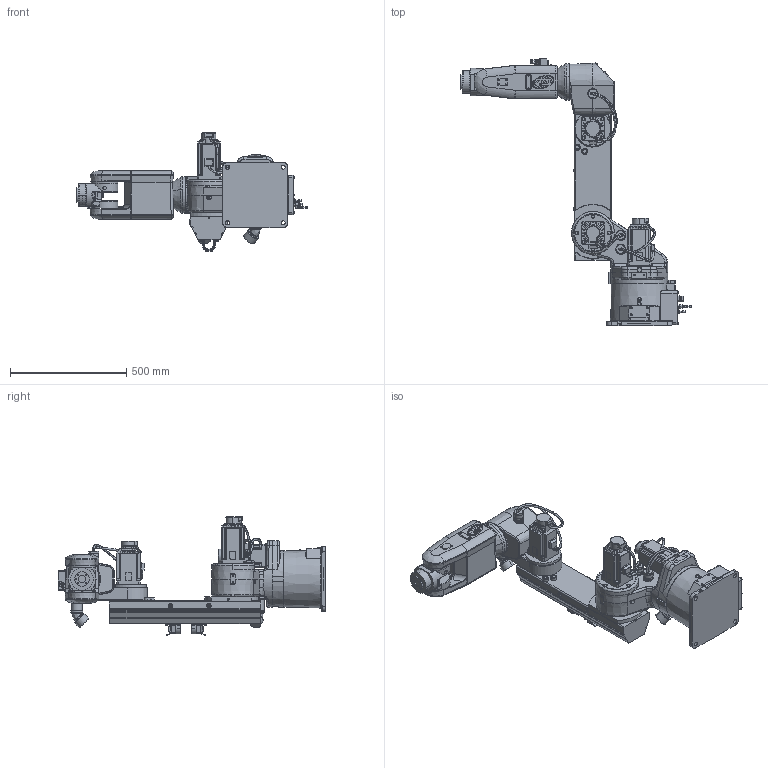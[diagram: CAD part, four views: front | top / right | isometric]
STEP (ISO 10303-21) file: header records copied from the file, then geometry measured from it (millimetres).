
FILE_DESCRIPTION((''),'2;1');
FILE_NAME('TVM900__ASM','2024-06-21T16:03:19',('15575'),(''),'CREO PARAMETRIC BY PTC INC, 2020454','CREO PARAMETRIC BY PTC INC, 2020454','');
FILE_SCHEMA(('AUTOMOTIVE_DESIGN { 1 0 10303 214 1 1 1 1 }'));
Products named in the file (8): TVM900_1ST_ARM; TVM900_3RD_ARM; PRT0017; PRT0019; PRT0024; PRT0026; PRT0027; TVM900__ASM
Assembly tree (7 placements, depth 2):
  TVM900__ASM
    TVM900_1ST_ARM
    TVM900_3RD_ARM
    PRT0017
    PRT0019
    PRT0024
    PRT0026
    PRT0027
Bounding box: 994.1 x 1152.8 x 511.14 mm (x, y, z)
Volume: 46553262.3 mm3; surface area: 2568732.1 mm2
Topology: 7 solids, 84 shells, 3804 faces, 9430 edges, 5931 vertices
Faces by surface type: plane 1684, cylinder 1265, bspline 302, cone 246, torus 148, extrusion 80, sphere 67, revolution 12
Entity records: 155117 total; most frequent: CARTESIAN_POINT 45034, ORIENTED_EDGE 18632, DIRECTION 18083, EDGE_CURVE 9334, AXIS2_PLACEMENT_3D 6686, VERTEX_POINT 5931, VECTOR 4699, LINE 4619
